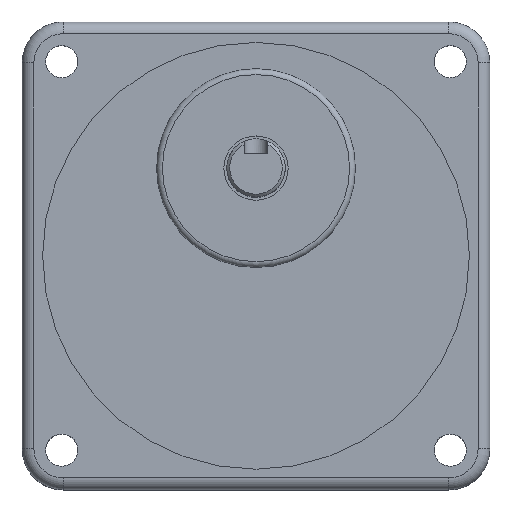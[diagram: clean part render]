
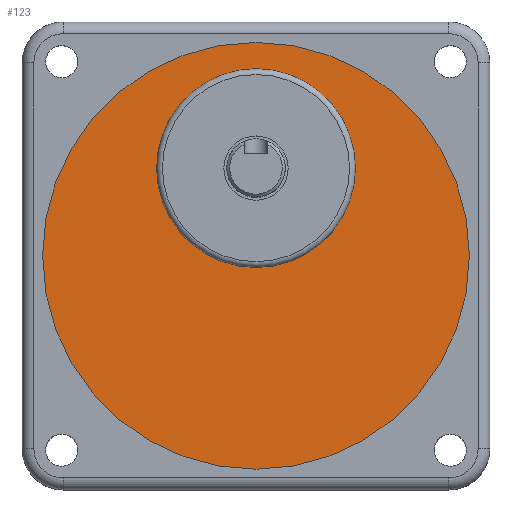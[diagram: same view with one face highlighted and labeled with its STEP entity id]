
A CAD part, top view. The second image highlights one B-rep face of the part: STEP entity #123.
In plain terms, the highlighted planar face has unit normal (0, 0, 1).
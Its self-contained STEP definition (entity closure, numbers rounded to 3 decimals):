
#54 = DIRECTION ( 'NONE',  ( 0., 0., 1. ) ) ;
#79 = CIRCLE ( 'NONE', #1156, 17. ) ;
#86 = EDGE_CURVE ( 'NONE', #796, #796, #485, .T. ) ;
#123 = ADVANCED_FACE ( 'NONE', ( #967, #378 ), #239, .T. ) ;
#147 = EDGE_CURVE ( 'NONE', #532, #532, #79, .T. ) ;
#152 = CARTESIAN_POINT ( 'NONE',  ( 0., 0., -1. ) ) ;
#239 = PLANE ( 'NONE',  #590 ) ;
#370 = EDGE_LOOP ( 'NONE', ( #1226 ) ) ;
#371 = AXIS2_PLACEMENT_3D ( 'NONE', #152, #525, #1214 ) ;
#378 = FACE_OUTER_BOUND ( 'NONE', #749, .T. ) ;
#419 = CARTESIAN_POINT ( 'NONE',  ( 17., 15., -1. ) ) ;
#425 = CARTESIAN_POINT ( 'NONE',  ( 36.5, 0., -1. ) ) ;
#485 = CIRCLE ( 'NONE', #371, 36.5 ) ;
#520 = DIRECTION ( 'NONE',  ( 1., 0., 0. ) ) ;
#522 = ORIENTED_EDGE ( 'NONE', *, *, #86, .T. ) ;
#525 = DIRECTION ( 'NONE',  ( 0., 0., 1. ) ) ;
#532 = VERTEX_POINT ( 'NONE', #419 ) ;
#590 = AXIS2_PLACEMENT_3D ( 'NONE', #738, #54, #813 ) ;
#715 = CARTESIAN_POINT ( 'NONE',  ( 0., 15., -1. ) ) ;
#738 = CARTESIAN_POINT ( 'NONE',  ( 0., 0., -1. ) ) ;
#749 = EDGE_LOOP ( 'NONE', ( #522 ) ) ;
#796 = VERTEX_POINT ( 'NONE', #425 ) ;
#813 = DIRECTION ( 'NONE',  ( 1., 0., 0. ) ) ;
#967 = FACE_BOUND ( 'NONE', #370, .T. ) ;
#1156 = AXIS2_PLACEMENT_3D ( 'NONE', #715, #1194, #520 ) ;
#1194 = DIRECTION ( 'NONE',  ( 0., 0., 1. ) ) ;
#1214 = DIRECTION ( 'NONE',  ( 1., 0., 0. ) ) ;
#1226 = ORIENTED_EDGE ( 'NONE', *, *, #147, .F. ) ;
